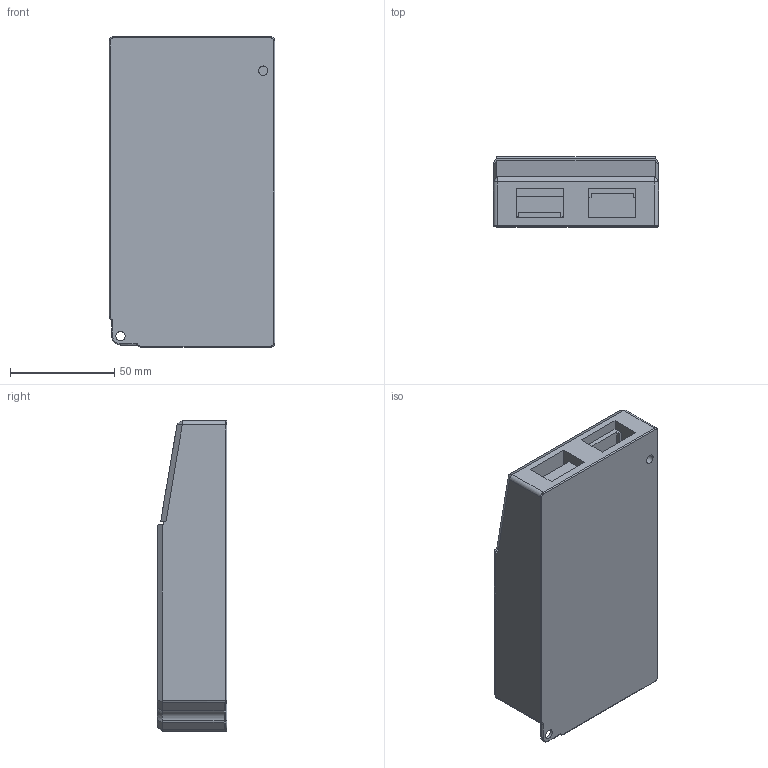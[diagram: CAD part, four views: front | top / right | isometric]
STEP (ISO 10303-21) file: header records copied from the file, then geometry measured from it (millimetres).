
FILE_DESCRIPTION((''),'2;1');
FILE_NAME('09550093Z','2012-07-18T',('juergen.hrach'),(''),'PRO/ENGINEER BY PARAMETRIC TECHNOLOGY CORPORATION, 2011310','PRO/ENGINEER BY PARAMETRIC TECHNOLOGY CORPORATION, 2011310','');
FILE_SCHEMA(('AUTOMOTIVE_DESIGN { 1 2 10303 214 0 1 1 1 }'));
Length unit declared in the file: millimetre
Products named in the file (1): 09550093Z
Bounding box: 79.5 x 33.5 x 149.19 mm (x, y, z)
Volume: 342074.9 mm3; surface area: 44759.5 mm2
Topology: 1 solids, 1 shells, 91 faces, 234 edges, 148 vertices
Faces by surface type: plane 59, cylinder 21, torus 6, cone 3, bspline 2
Entity records: 3698 total; most frequent: CARTESIAN_POINT 652, ORIENTED_EDGE 468, DIRECTION 440, PRESENTATION_STYLE_ASSIGNMENT 235, STYLED_ITEM 235, CURVE_STYLE 234, EDGE_CURVE 234, VECTOR 178
